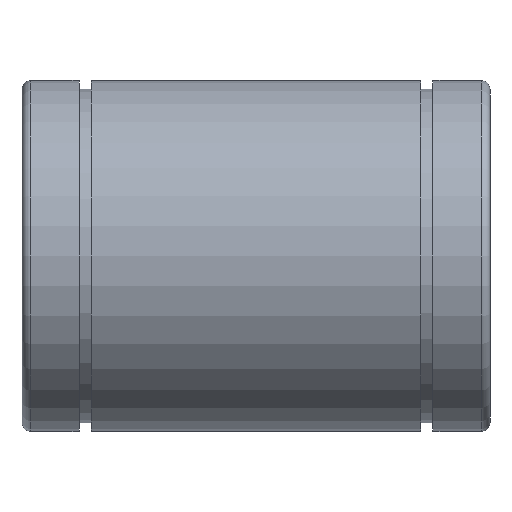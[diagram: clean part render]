
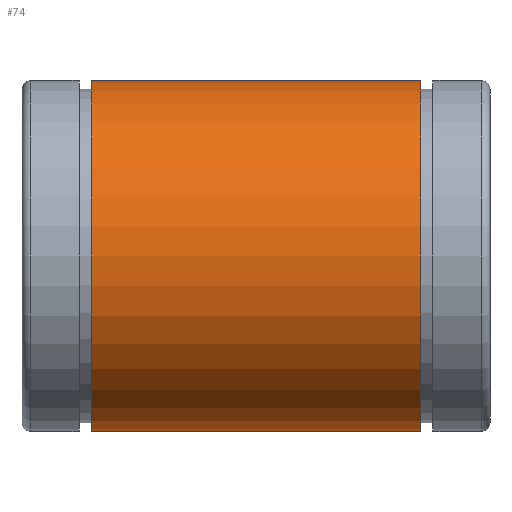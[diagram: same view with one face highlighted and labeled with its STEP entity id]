
A CAD part, front view. The second image highlights one B-rep face of the part: STEP entity #74.
In plain terms, the highlighted cylindrical face has radius 30 mm (diameter 60 mm), a full revolution.
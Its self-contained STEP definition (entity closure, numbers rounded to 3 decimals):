
#74 = ADVANCED_FACE( '', ( #159, #160 ), #161, .T. );
#159 = FACE_OUTER_BOUND( '', #238, .T. );
#160 = FACE_OUTER_BOUND( '', #239, .T. );
#161 = CYLINDRICAL_SURFACE( '', #240, 30. );
#238 = EDGE_LOOP( '', ( #343 ) );
#239 = EDGE_LOOP( '', ( #344 ) );
#240 = AXIS2_PLACEMENT_3D( '', #345, #346, #347 );
#343 = ORIENTED_EDGE( '', *, *, #372, .F. );
#344 = ORIENTED_EDGE( '', *, *, #376, .T. );
#345 = CARTESIAN_POINT( '', ( 40., 0., 0. ) );
#346 = DIRECTION( '', ( -1., 0., 0. ) );
#347 = DIRECTION( '', ( 0., 1., 0. ) );
#372 = EDGE_CURVE( '', #419, #419, #420, .T. );
#376 = EDGE_CURVE( '', #425, #425, #426, .T. );
#419 = VERTEX_POINT( '', #473 );
#420 = CIRCLE( '', #474, 30. );
#425 = VERTEX_POINT( '', #479 );
#426 = CIRCLE( '', #480, 30. );
#473 = CARTESIAN_POINT( '', ( 11.85, 30., 0. ) );
#474 = AXIS2_PLACEMENT_3D( '', #531, #532, #533 );
#479 = CARTESIAN_POINT( '', ( 68.15, 30., 0. ) );
#480 = AXIS2_PLACEMENT_3D( '', #537, #538, #539 );
#531 = CARTESIAN_POINT( '', ( 11.85, 0., 0. ) );
#532 = DIRECTION( '', ( -1., 0., 0. ) );
#533 = DIRECTION( '', ( 0., 1., 0. ) );
#537 = CARTESIAN_POINT( '', ( 68.15, 0., 0. ) );
#538 = DIRECTION( '', ( -1., 0., 0. ) );
#539 = DIRECTION( '', ( 0., 1., 0. ) );
